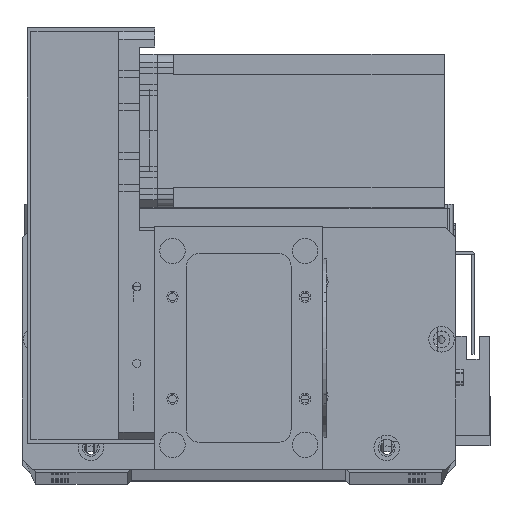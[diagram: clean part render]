
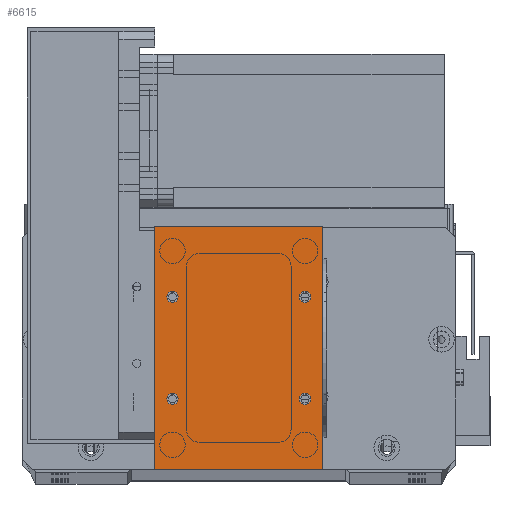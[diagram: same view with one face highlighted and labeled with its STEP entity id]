
A CAD part, top view. The second image highlights one B-rep face of the part: STEP entity #6615.
In plain terms, the highlighted planar face has unit normal (0, 0, 1).
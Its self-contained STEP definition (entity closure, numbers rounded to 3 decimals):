
#191 = CARTESIAN_POINT ( 'NONE',  ( 59., 67.5, 2. ) ) ;
#305 = CIRCLE ( 'NONE', #13181, 2.25 ) ;
#685 = CARTESIAN_POINT ( 'NONE',  ( 56.75, 67.5, 2. ) ) ;
#1297 = LINE ( 'NONE', #7705, #8307 ) ;
#1326 = CARTESIAN_POINT ( 'NONE',  ( 7., 27.5, 2. ) ) ;
#2493 = VECTOR ( 'NONE', #32250, 1000. ) ;
#2496 = EDGE_CURVE ( 'NONE', #30777, #2529, #17866, .T. ) ;
#2529 = VERTEX_POINT ( 'NONE', #4404 ) ;
#2845 = DIRECTION ( 'NONE',  ( 1., 0., 0. ) ) ;
#3573 = EDGE_CURVE ( 'NONE', #33951, #24730, #1297, .T. ) ;
#3981 = DIRECTION ( 'NONE',  ( 1., 0., 0. ) ) ;
#4404 = CARTESIAN_POINT ( 'NONE',  ( 4.75, 67.5, 2. ) ) ;
#4420 = DIRECTION ( 'NONE',  ( 0., 0., 1. ) ) ;
#4659 = CIRCLE ( 'NONE', #32007, 2.25 ) ;
#4673 = ORIENTED_EDGE ( 'NONE', *, *, #4965, .F. ) ;
#4722 = CARTESIAN_POINT ( 'NONE',  ( 0., 95., 2. ) ) ;
#4933 = CARTESIAN_POINT ( 'NONE',  ( 59., 27.5, 2. ) ) ;
#4965 = EDGE_CURVE ( 'NONE', #26861, #11021, #21925, .T. ) ;
#5114 = DIRECTION ( 'NONE',  ( 0., 1., 0. ) ) ;
#5401 = VERTEX_POINT ( 'NONE', #23101 ) ;
#5945 = ORIENTED_EDGE ( 'NONE', *, *, #6770, .F. ) ;
#6615 = ADVANCED_FACE ( 'NONE', ( #33321, #25511, #18487, #13081, #11443 ), #7933, .F. ) ;
#6770 = EDGE_CURVE ( 'NONE', #2529, #30777, #305, .T. ) ;
#6949 = DIRECTION ( 'NONE',  ( 0., 0., 1. ) ) ;
#7516 = ORIENTED_EDGE ( 'NONE', *, *, #2496, .F. ) ;
#7574 = VECTOR ( 'NONE', #5114, 1000. ) ;
#7590 = DIRECTION ( 'NONE',  ( 1., 0., 0. ) ) ;
#7705 = CARTESIAN_POINT ( 'NONE',  ( 0., 95., 2. ) ) ;
#7822 = ORIENTED_EDGE ( 'NONE', *, *, #19598, .F. ) ;
#7933 = PLANE ( 'NONE',  #15202 ) ;
#7943 = CARTESIAN_POINT ( 'NONE',  ( 9.25, 67.5, 2. ) ) ;
#8217 = ORIENTED_EDGE ( 'NONE', *, *, #9332, .F. ) ;
#8230 = CARTESIAN_POINT ( 'NONE',  ( 59., 67.5, 2. ) ) ;
#8307 = VECTOR ( 'NONE', #18214, 1000. ) ;
#8408 = LINE ( 'NONE', #20937, #7574 ) ;
#9332 = EDGE_CURVE ( 'NONE', #16552, #20421, #24536, .T. ) ;
#9426 = EDGE_CURVE ( 'NONE', #20421, #16552, #4659, .T. ) ;
#9493 = LINE ( 'NONE', #29628, #2493 ) ;
#9774 = VERTEX_POINT ( 'NONE', #21973 ) ;
#9892 = DIRECTION ( 'NONE',  ( 0., 0., 1. ) ) ;
#10561 = DIRECTION ( 'NONE',  ( -1., 0., 0. ) ) ;
#10865 = DIRECTION ( 'NONE',  ( 1., 0., 0. ) ) ;
#11021 = VERTEX_POINT ( 'NONE', #685 ) ;
#11043 = EDGE_CURVE ( 'NONE', #24730, #9774, #9493, .T. ) ;
#11443 = FACE_OUTER_BOUND ( 'NONE', #12261, .T. ) ;
#12261 = EDGE_LOOP ( 'NONE', ( #26918, #20031, #13384, #25110 ) ) ;
#12418 = CIRCLE ( 'NONE', #25045, 2.25 ) ;
#13081 = FACE_BOUND ( 'NONE', #33176, .T. ) ;
#13181 = AXIS2_PLACEMENT_3D ( 'NONE', #14142, #32588, #16817 ) ;
#13384 = ORIENTED_EDGE ( 'NONE', *, *, #25911, .T. ) ;
#14142 = CARTESIAN_POINT ( 'NONE',  ( 7., 67.5, 2. ) ) ;
#14539 = AXIS2_PLACEMENT_3D ( 'NONE', #191, #18657, #2845 ) ;
#15202 = AXIS2_PLACEMENT_3D ( 'NONE', #23768, #26407, #10561 ) ;
#15871 = CARTESIAN_POINT ( 'NONE',  ( 61.25, 67.5, 2. ) ) ;
#16552 = VERTEX_POINT ( 'NONE', #18087 ) ;
#16817 = DIRECTION ( 'NONE',  ( 1., 0., 0. ) ) ;
#16875 = ORIENTED_EDGE ( 'NONE', *, *, #20422, .F. ) ;
#17866 = CIRCLE ( 'NONE', #18653, 2.25 ) ;
#18087 = CARTESIAN_POINT ( 'NONE',  ( 9.25, 27.5, 2. ) ) ;
#18214 = DIRECTION ( 'NONE',  ( -1., 0., 0. ) ) ;
#18470 = EDGE_LOOP ( 'NONE', ( #25080, #7822 ) ) ;
#18479 = VECTOR ( 'NONE', #33974, 1000. ) ;
#18487 = FACE_BOUND ( 'NONE', #18470, .T. ) ;
#18653 = AXIS2_PLACEMENT_3D ( 'NONE', #22782, #6949, #25433 ) ;
#18657 = DIRECTION ( 'NONE',  ( 0., 0., 1. ) ) ;
#19165 = AXIS2_PLACEMENT_3D ( 'NONE', #8230, #26696, #10865 ) ;
#19598 = EDGE_CURVE ( 'NONE', #5401, #22195, #27775, .T. ) ;
#19814 = DIRECTION ( 'NONE',  ( 0., 0., 1. ) ) ;
#20031 = ORIENTED_EDGE ( 'NONE', *, *, #23638, .T. ) ;
#20260 = CARTESIAN_POINT ( 'NONE',  ( 7., 27.5, 2. ) ) ;
#20421 = VERTEX_POINT ( 'NONE', #26504 ) ;
#20422 = EDGE_CURVE ( 'NONE', #11021, #26861, #24864, .T. ) ;
#20937 = CARTESIAN_POINT ( 'NONE',  ( 66., 0., 2. ) ) ;
#21864 = EDGE_LOOP ( 'NONE', ( #7516, #5945 ) ) ;
#21925 = CIRCLE ( 'NONE', #19165, 2.25 ) ;
#21973 = CARTESIAN_POINT ( 'NONE',  ( 0., 0., 2. ) ) ;
#22195 = VERTEX_POINT ( 'NONE', #23061 ) ;
#22782 = CARTESIAN_POINT ( 'NONE',  ( 7., 67.5, 2. ) ) ;
#22915 = DIRECTION ( 'NONE',  ( 1., 0., 0. ) ) ;
#23061 = CARTESIAN_POINT ( 'NONE',  ( 61.25, 27.5, 2. ) ) ;
#23101 = CARTESIAN_POINT ( 'NONE',  ( 56.75, 27.5, 2. ) ) ;
#23225 = AXIS2_PLACEMENT_3D ( 'NONE', #1326, #19814, #3981 ) ;
#23337 = AXIS2_PLACEMENT_3D ( 'NONE', #25748, #9892, #28383 ) ;
#23427 = DIRECTION ( 'NONE',  ( 0., 0., 1. ) ) ;
#23638 = EDGE_CURVE ( 'NONE', #9774, #32053, #25509, .T. ) ;
#23768 = CARTESIAN_POINT ( 'NONE',  ( 0., 0., 2. ) ) ;
#24536 = CIRCLE ( 'NONE', #23225, 2.25 ) ;
#24730 = VERTEX_POINT ( 'NONE', #4722 ) ;
#24864 = CIRCLE ( 'NONE', #14539, 2.25 ) ;
#25045 = AXIS2_PLACEMENT_3D ( 'NONE', #4933, #23427, #7590 ) ;
#25080 = ORIENTED_EDGE ( 'NONE', *, *, #32258, .F. ) ;
#25110 = ORIENTED_EDGE ( 'NONE', *, *, #3573, .T. ) ;
#25185 = CARTESIAN_POINT ( 'NONE',  ( 66., 0., 2. ) ) ;
#25433 = DIRECTION ( 'NONE',  ( 1., 0., 0. ) ) ;
#25509 = LINE ( 'NONE', #26050, #18479 ) ;
#25511 = FACE_BOUND ( 'NONE', #29595, .T. ) ;
#25748 = CARTESIAN_POINT ( 'NONE',  ( 59., 27.5, 2. ) ) ;
#25911 = EDGE_CURVE ( 'NONE', #32053, #33951, #8408, .T. ) ;
#26050 = CARTESIAN_POINT ( 'NONE',  ( 0., 0., 2. ) ) ;
#26407 = DIRECTION ( 'NONE',  ( 0., 0., -1. ) ) ;
#26504 = CARTESIAN_POINT ( 'NONE',  ( 4.75, 27.5, 2. ) ) ;
#26696 = DIRECTION ( 'NONE',  ( 0., 0., 1. ) ) ;
#26861 = VERTEX_POINT ( 'NONE', #15871 ) ;
#26918 = ORIENTED_EDGE ( 'NONE', *, *, #11043, .T. ) ;
#27775 = CIRCLE ( 'NONE', #23337, 2.25 ) ;
#28383 = DIRECTION ( 'NONE',  ( 1., 0., 0. ) ) ;
#29595 = EDGE_LOOP ( 'NONE', ( #4673, #16875 ) ) ;
#29628 = CARTESIAN_POINT ( 'NONE',  ( 0., 0., 2. ) ) ;
#30777 = VERTEX_POINT ( 'NONE', #7943 ) ;
#32007 = AXIS2_PLACEMENT_3D ( 'NONE', #20260, #4420, #22915 ) ;
#32053 = VERTEX_POINT ( 'NONE', #25185 ) ;
#32250 = DIRECTION ( 'NONE',  ( 0., -1., 0. ) ) ;
#32258 = EDGE_CURVE ( 'NONE', #22195, #5401, #12418, .T. ) ;
#32588 = DIRECTION ( 'NONE',  ( 0., 0., 1. ) ) ;
#33176 = EDGE_LOOP ( 'NONE', ( #8217, #33495 ) ) ;
#33321 = FACE_BOUND ( 'NONE', #21864, .T. ) ;
#33495 = ORIENTED_EDGE ( 'NONE', *, *, #9426, .F. ) ;
#33770 = CARTESIAN_POINT ( 'NONE',  ( 66., 95., 2. ) ) ;
#33951 = VERTEX_POINT ( 'NONE', #33770 ) ;
#33974 = DIRECTION ( 'NONE',  ( 1., 0., 0. ) ) ;
